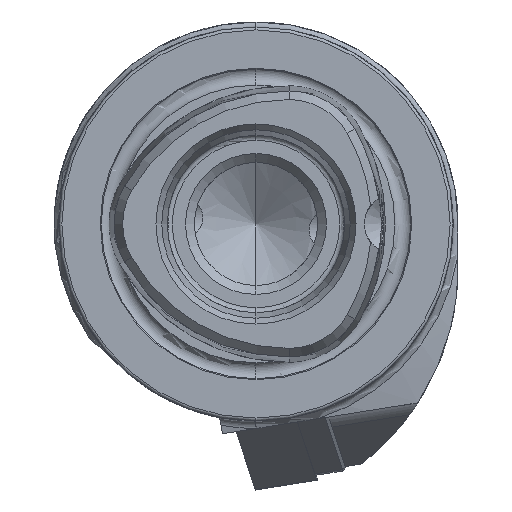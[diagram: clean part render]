
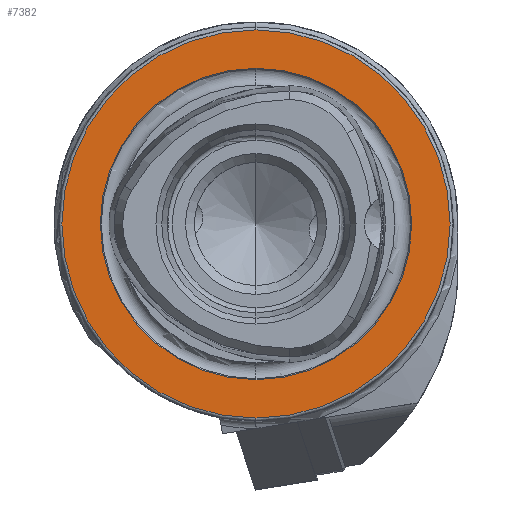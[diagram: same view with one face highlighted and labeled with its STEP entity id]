
A CAD part, left-side view. The second image highlights one B-rep face of the part: STEP entity #7382.
In plain terms, the highlighted planar face has unit normal (-1, 0, 0).
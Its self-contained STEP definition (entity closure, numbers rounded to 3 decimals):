
#314 = CIRCLE ( 'NONE', #2610, 19.7 ) ;
#582 = ORIENTED_EDGE ( 'NONE', *, *, #10232, .T. ) ;
#1465 = CARTESIAN_POINT ( 'NONE',  ( 0., 0., 0. ) ) ;
#1705 = CARTESIAN_POINT ( 'NONE',  ( 0., 0., 0. ) ) ;
#1851 = CARTESIAN_POINT ( 'NONE',  ( 0., 0., 15.8 ) ) ;
#1885 = PLANE ( 'NONE',  #10156 ) ;
#2610 = AXIS2_PLACEMENT_3D ( 'NONE', #10756, #3536, #9659 ) ;
#2803 = DIRECTION ( 'NONE',  ( 0., 0., 1. ) ) ;
#2942 = DIRECTION ( 'NONE',  ( 1., 0., 0. ) ) ;
#3536 = DIRECTION ( 'NONE',  ( -1., 0., 0. ) ) ;
#3909 = DIRECTION ( 'NONE',  ( -1., 0., 0. ) ) ;
#4154 = CIRCLE ( 'NONE', #14951, 15.8 ) ;
#4585 = CIRCLE ( 'NONE', #7011, 19.7 ) ;
#4913 = FACE_OUTER_BOUND ( 'NONE', #7478, .T. ) ;
#4968 = CARTESIAN_POINT ( 'NONE',  ( 0., 0., 0. ) ) ;
#5151 = EDGE_CURVE ( 'NONE', #8659, #5181, #4154, .T. ) ;
#5181 = VERTEX_POINT ( 'NONE', #5564 ) ;
#5564 = CARTESIAN_POINT ( 'NONE',  ( 0., 0., -15.8 ) ) ;
#5769 = EDGE_CURVE ( 'NONE', #5181, #8659, #15019, .T. ) ;
#6006 = DIRECTION ( 'NONE',  ( -1., 0., 0. ) ) ;
#6193 = DIRECTION ( 'NONE',  ( -1., 0., 0. ) ) ;
#7011 = AXIS2_PLACEMENT_3D ( 'NONE', #1705, #3909, #2803 ) ;
#7382 = ADVANCED_FACE ( 'NONE', ( #11687, #4913 ), #1885, .F. ) ;
#7478 = EDGE_LOOP ( 'NONE', ( #9815, #582 ) ) ;
#7782 = EDGE_LOOP ( 'NONE', ( #13166, #7837 ) ) ;
#7837 = ORIENTED_EDGE ( 'NONE', *, *, #5769, .F. ) ;
#8508 = DIRECTION ( 'NONE',  ( 0., 0., 1. ) ) ;
#8659 = VERTEX_POINT ( 'NONE', #1851 ) ;
#8746 = AXIS2_PLACEMENT_3D ( 'NONE', #4968, #6006, #8508 ) ;
#9659 = DIRECTION ( 'NONE',  ( 0., 0., 1. ) ) ;
#9815 = ORIENTED_EDGE ( 'NONE', *, *, #14678, .T. ) ;
#9936 = CARTESIAN_POINT ( 'NONE',  ( 0., 0., -19.7 ) ) ;
#10156 = AXIS2_PLACEMENT_3D ( 'NONE', #15049, #2942, #10327 ) ;
#10232 = EDGE_CURVE ( 'NONE', #14116, #10806, #314, .T. ) ;
#10327 = DIRECTION ( 'NONE',  ( 0., 0., -1. ) ) ;
#10390 = CARTESIAN_POINT ( 'NONE',  ( 0., 0., 19.7 ) ) ;
#10756 = CARTESIAN_POINT ( 'NONE',  ( 0., 0., 0. ) ) ;
#10806 = VERTEX_POINT ( 'NONE', #10390 ) ;
#11687 = FACE_BOUND ( 'NONE', #7782, .T. ) ;
#12125 = DIRECTION ( 'NONE',  ( 0., 0., 1. ) ) ;
#13166 = ORIENTED_EDGE ( 'NONE', *, *, #5151, .F. ) ;
#14116 = VERTEX_POINT ( 'NONE', #9936 ) ;
#14678 = EDGE_CURVE ( 'NONE', #10806, #14116, #4585, .T. ) ;
#14951 = AXIS2_PLACEMENT_3D ( 'NONE', #1465, #6193, #12125 ) ;
#15019 = CIRCLE ( 'NONE', #8746, 15.8 ) ;
#15049 = CARTESIAN_POINT ( 'NONE',  ( 0., 15.8, 0. ) ) ;
